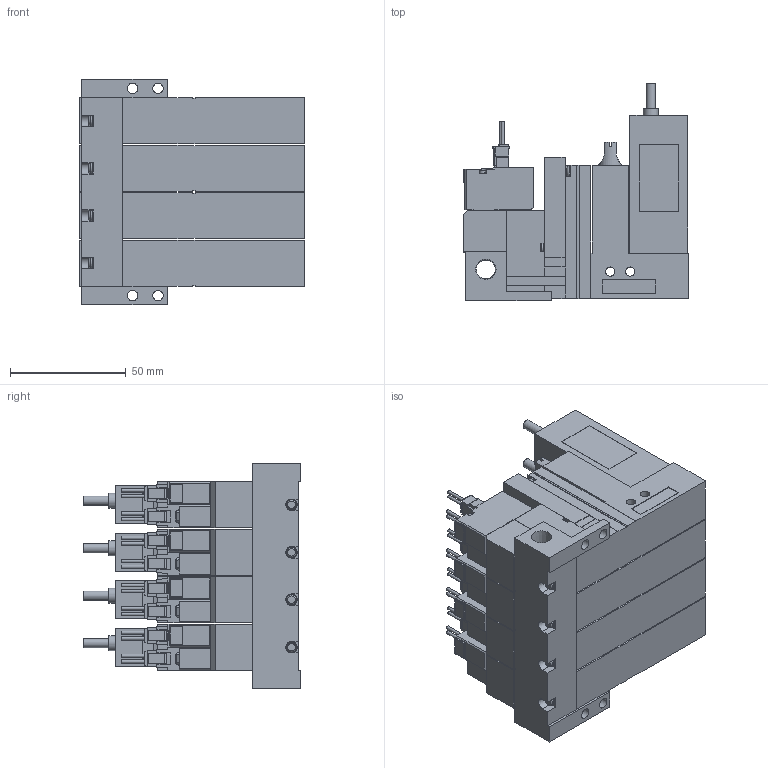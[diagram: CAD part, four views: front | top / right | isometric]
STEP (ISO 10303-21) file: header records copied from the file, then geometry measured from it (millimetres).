
FILE_DESCRIPTION(('STEP AP203'),'1');
FILE_NAME('VG_VGPLC5ALR404.stp','2025-02-18T23:38:20',(' '),(' '),'Spatial InterOp 3D',' ',' ');
FILE_SCHEMA(('CONFIG_CONTROL_DESIGN'));
Length unit declared in the file: millimetre
Products named in the file (5): BMC22M※※※※VG_VGPLC5ALR404; Solenoid valve A; Pressure sensor VGLC; Unit LC; Base MR40R
Assembly tree (13 placements, depth 2):
  BMC22M※※※※VG_VGPLC5ALR404
    Solenoid valve A  x4
    Pressure sensor VGLC  x4
    Unit LC  x4
    Base MR40R
Bounding box: 97.6 x 94 x 97.5 mm (x, y, z)
Volume: 452591.7 mm3; surface area: 116404.1 mm2
Topology: 13 solids, 13 shells, 1681 faces, 4499 edges, 2960 vertices
Faces by surface type: plane 1422, cylinder 209, cone 30, torus 20
Full cylindrical faces by diameter (mm): 1.4 x16, 2.5 x12, 3 x16, 3.5 x16, 3.6 x4, 4 x24, 4.134 x4, 4.5 x4, 5.2 x4, 6 x4, 6.5 x4, 6.6 x4, 8.279 x1
Entity records: 14933 total; most frequent: CARTESIAN_POINT 2829, DIRECTION 2371, ORIENTED_EDGE 2366, EDGE_CURVE 1183, LINE 977, VECTOR 977, VERTEX_POINT 819, AXIS2_PLACEMENT_3D 697
